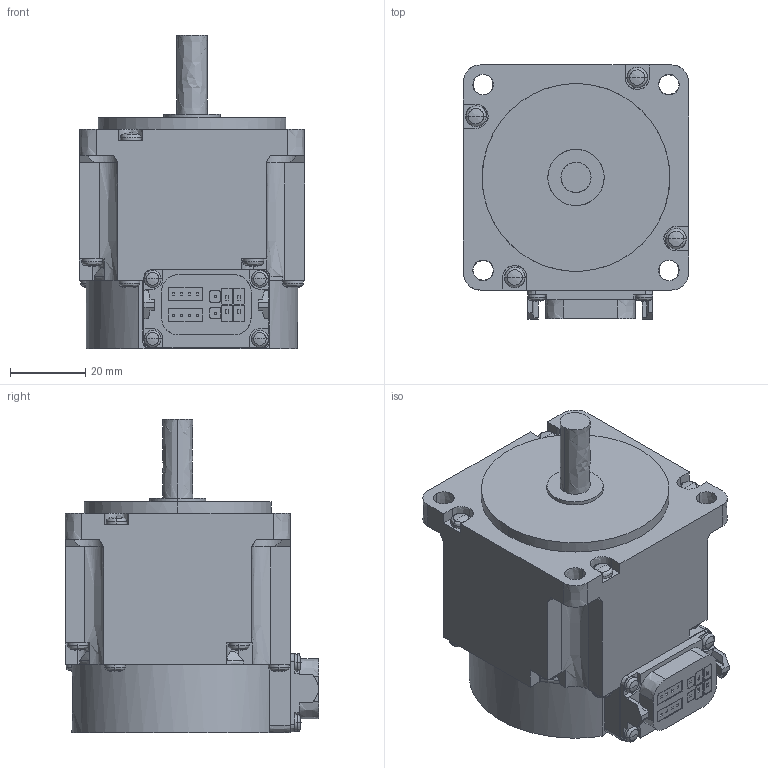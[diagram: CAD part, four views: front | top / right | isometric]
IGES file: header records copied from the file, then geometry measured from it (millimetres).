
Start section:  PTC IGES file: hk-kt13uw_-_asm.igs
Global section: file name: hk-kt13uw_-_asm.igs; native system: Creo Parametric by PTC Inc.; preprocessor: 2016380; author: XE90682; organization: Unknown; date: 20190115.170216; units: millimetre
Bounding box: 60 x 67.65 x 83.5 mm (x, y, z)
Volume: 189135.9 mm3; surface area: 22657.7 mm2
Topology: 1 solids, 1 shells, 401 faces, 1042 edges, 654 vertices
Faces by surface type: bspline 401
